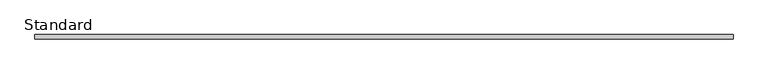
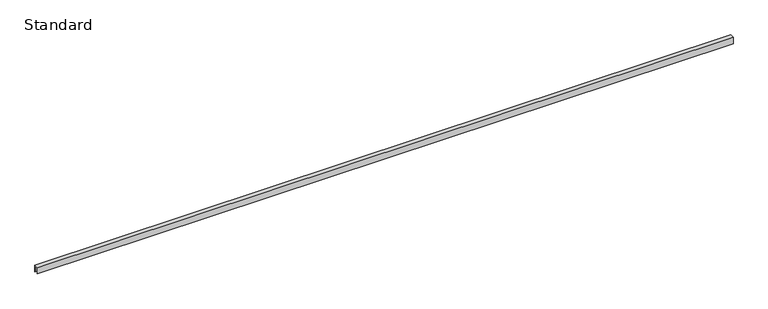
"""IFC4 building model written with IfcOpenShell, lengths in millimetres: furniture geometry, X_Partition-Channel-Duracube-Ceiling : Standard."""

from ifc_helpers import new_model, si_unit, frame, origin, place, context, project, spatial, polyline, outline, extrude, source, transform, mapped, element, save


def standard_ffdb37bb(model_context):
    return source(origin(), model_context, "Body", "SweptSolid", [
        extrude(outline(polyline([(0.0, 0.0), (-2.0, 0.0), (-2.0, 24.0), (-15.0, 24.0), (-15.0, 0.0), (-17.0, 0.0), (-17.0, 26.0), (0.0, 26.0), (0.0, 0.0)])), frame((-1330.2996736, 0.0, 0.0), z_axis=(1.0, 0.0, 0.0), x_axis=(0.0, 1.0, 0.0)), (0.0, 0.0, 1.0), 2750.0),
    ])


if __name__ == "__main__":
    model = new_model("IFC4")
    model_context = context("Model", 3, world=origin())
    ifc_project = project(units=[si_unit("LENGTHUNIT", "METRE", prefix="MILLI")], contexts=[model_context])
    site = spatial("IfcSite", under=ifc_project)
    building = spatial("IfcBuilding", under=site)
    placement = place(None, origin())
    standard_shape = standard_ffdb37bb(model_context)
    element("IfcFurniture", 1, ObjectType="X_Partition-Channel-Duracube-Ceiling : Standard", at=placement, inside=building, context=model_context, shape_type="MappedRepresentation", body=[
        mapped(standard_shape, transform((0.0, 0.0, 0.0), x_axis=(1.0, 0.0, 0.0), y_axis=(0.0, 1.0, 0.0), z_axis=(0.0, 0.0, 1.0))),
    ])
    save(model, "model.ifc")
